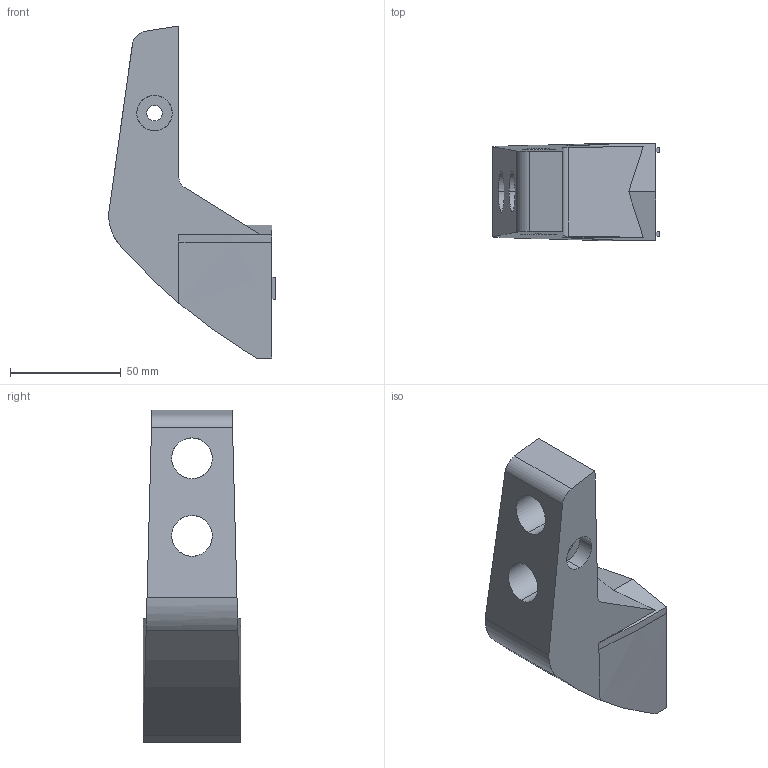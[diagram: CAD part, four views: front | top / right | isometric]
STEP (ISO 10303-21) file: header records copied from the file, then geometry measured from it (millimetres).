
FILE_DESCRIPTION (( 'STEP AP214' ), '1' );
FILE_NAME ('FGRF A35.step', '2017-04-05T07:43:22', ( '' ), ( '' ), 'SwSTEP 2.0', 'SolidWorks 2015', '' );
FILE_SCHEMA (( 'AUTOMOTIVE_DESIGN' ));
Length unit declared in the file: millimetre
Products named in the file (1): FGRF A35
Bounding box: 75.18 x 44 x 149.8 mm (x, y, z)
Volume: 200004.3 mm3; surface area: 29199.1 mm2
Topology: 1 solids, 1 shells, 41 faces, 108 edges, 73 vertices
Faces by surface type: plane 23, cylinder 14, bspline 4
Entity records: 1386 total; most frequent: CARTESIAN_POINT 385, ORIENTED_EDGE 216, DIRECTION 170, EDGE_CURVE 108, VERTEX_POINT 73, LINE 70, VECTOR 70, EDGE_LOOP 51
